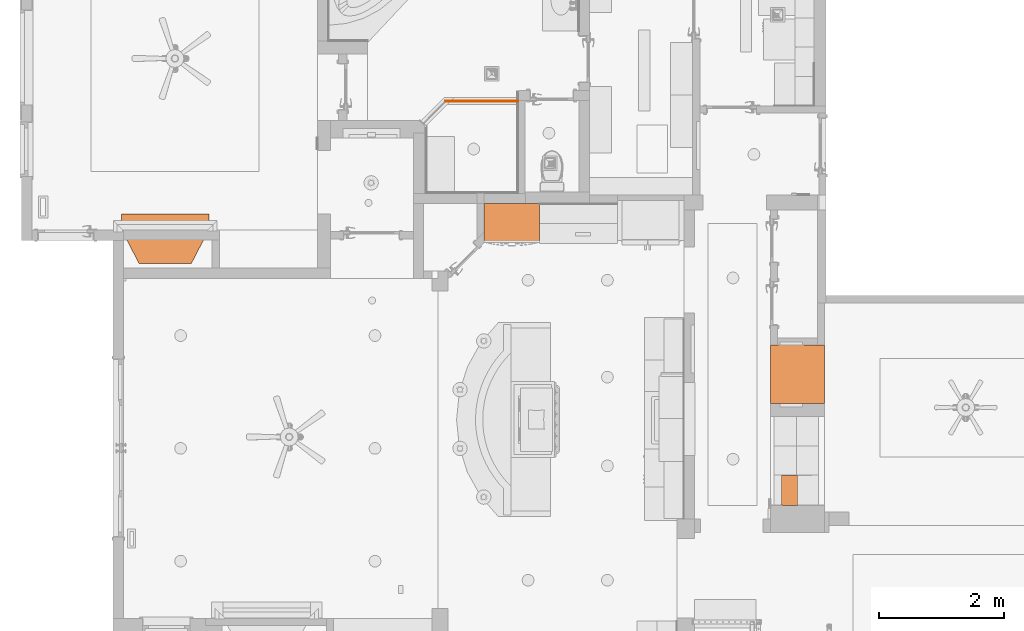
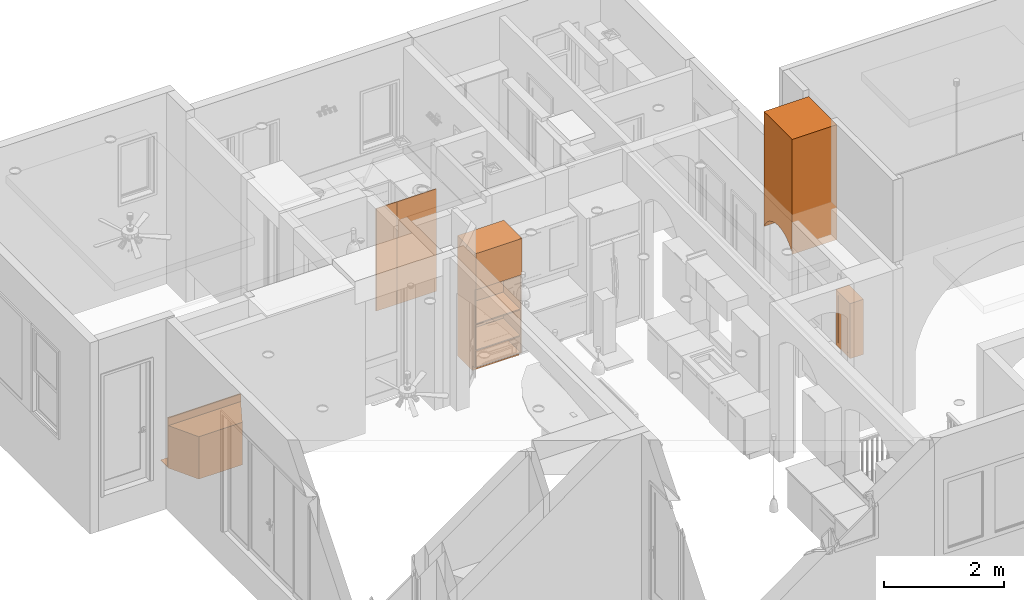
# One storey, part 66 of 77: 6 proxies.
"""IFC2X3 building model written with IfcOpenShell, lengths in inches."""

from ifc_helpers import new_model, entity, si_unit, converted_unit, derived_unit, money_unit, direction, frame, origin_with_axes, place, context, subcontext, project, spatial, faceted_brep, material, type_object, element, save


model = new_model("IFC2X3")

# Units and contexts
model_context = context("Model", 3, precision=0.000393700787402, world=origin_with_axes(), true_north=direction((0.0, 1.0)))
body_context = subcontext(model_context, "Body", "Model", "MODEL_VIEW")
ifc_project = project(units=[converted_unit("LENGTHUNIT", "INCH", entity("IfcPositiveLengthMeasure", 0.0254), si_unit("LENGTHUNIT", "METRE"), dimensions=[1, 0, 0, 0, 0, 0, 0]), converted_unit("AREAUNIT", "SQUARE_FOOT", entity("IfcPositiveLengthMeasure", 0.09290304), si_unit("AREAUNIT", "SQUARE_METRE"), dimensions=[2, 0, 0, 0, 0, 0, 0]), si_unit("PLANEANGLEUNIT", "RADIAN"), si_unit("SOLIDANGLEUNIT", "STERADIAN"), money_unit("USD"), converted_unit("TIMEUNIT", "Year", entity("IfcTimeMeasure", 31556926.0), si_unit("TIMEUNIT", "SECOND"), dimensions=[0, 0, 1, 0, 0, 0, 0]), si_unit("MASSUNIT", "GRAM", prefix="KILO"), si_unit("THERMODYNAMICTEMPERATUREUNIT", "DEGREE_CELSIUS"), si_unit("LUMINOUSINTENSITYUNIT", "LUMEN"), si_unit("ENERGYUNIT", "JOULE", prefix="MEGA"), derived_unit("THERMALCONDUCTANCEUNIT", [(si_unit("POWERUNIT", "WATT"), 1), (si_unit("LENGTHUNIT", "METRE"), -1), (si_unit("THERMODYNAMICTEMPERATUREUNIT", "KELVIN"), -1)]), derived_unit("SPECIFICHEATCAPACITYUNIT", [(si_unit("ENERGYUNIT", "JOULE"), 1), (si_unit("MASSUNIT", "GRAM", prefix="KILO"), -1), (si_unit("THERMODYNAMICTEMPERATUREUNIT", "KELVIN"), -1)]), derived_unit("MASSDENSITYUNIT", [(si_unit("MASSUNIT", "GRAM", prefix="KILO"), 1), (si_unit("VOLUMEUNIT", "CUBIC_METRE"), -1)])], contexts=[model_context])

# Site, building, storey
site_placement = place(None, origin_with_axes())
site = spatial("IfcSite", under=ifc_project, at=site_placement, Name="Site", CompositionType="ELEMENT")
building_placement = place(site_placement, origin_with_axes())
building = spatial("IfcBuilding", under=site, at=building_placement, Name="Building", CompositionType="ELEMENT")
storey_placement = place(building_placement, frame((0.0, 0.0, 127.952755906), z_axis=(0.0, 0.0, 1.0), x_axis=(1.0, 0.0, 0.0)))
storey = spatial("IfcBuildingStorey", under=building, at=storey_placement, Name="Second Floor", CompositionType="ELEMENT", Elevation=127.953)

# Proxies
ifc_material_1 = material(Name="Generic - Structural")
building_element_proxy_type_1 = type_object("IfcBuildingElementProxyType", Name="Generic - Structural", PredefinedType="NOTDEFINED")
proxy_1_placement = place(storey_placement, frame((1891.98964339, 319.407172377, 186.094488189), z_axis=(0.0, 0.0, 1.0), x_axis=(1.0, 0.0, 0.0)))
element("IfcBuildingElementProxy", 1, at=proxy_1_placement, inside=storey, type_object=building_element_proxy_type_1, material=ifc_material_1, Name="MORPH-001", context=body_context, shape_type="Brep", body=[
    faceted_brep([(-1200.0, -35.0945622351, -88.6094861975), (-1200.0, -36.9971584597, -92.0), (-1200.0, -36.9971584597, 0.0), (-1200.0, 0.0, 0.0), (-1200.0, 0.0, -92.0), (-1200.0, -1.90259622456, -88.6094861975), (-1200.0, -4.419066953, -85.6459019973), (-1200.0, -7.45632958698, -83.2188684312), (-1200.0, -10.9020377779, -81.4181598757), (-1200.0, -14.6287370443, -80.3103833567), (-1200.0, -18.4985792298, -79.9365147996), (-1200.0, -22.3684214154, -80.3103833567), (-1200.0, -26.0951206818, -81.4181598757), (-1200.0, -29.5408288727, -83.2188684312), (-1200.0, -32.5780915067, -85.6459019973), (-1166.0, -35.0945622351, -88.6094861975), (-1166.0, -36.9971584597, -92.0), (-1166.0, -36.9971584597, 0.0), (-1166.0, 0.0, 0.0), (-1166.0, 0.0, -92.0), (-1166.0, -1.90259622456, -88.6094861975), (-1166.0, -4.419066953, -85.6459019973), (-1166.0, -7.45632958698, -83.2188684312), (-1166.0, -10.9020377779, -81.4181598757), (-1166.0, -14.6287370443, -80.3103833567), (-1166.0, -18.4985792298, -79.9365147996), (-1166.0, -22.3684214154, -80.3103833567), (-1166.0, -26.0951206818, -81.4181598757), (-1166.0, -29.5408288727, -83.2188684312), (-1166.0, -32.5780915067, -85.6459019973)], [[[0, 1, 2, 3, 4, 5, 6, 7, 8, 9, 10, 11, 12, 13, 14]], [[1, 0, 15, 16]], [[2, 1, 17]], [[2, 17, 18, 3]], [[4, 3, 18, 19]], [[5, 4, 19, 20]], [[6, 5, 20, 21]], [[7, 6, 21, 22]], [[8, 7, 22, 23]], [[9, 8, 23, 24]], [[10, 9, 24, 25]], [[11, 10, 25, 26]], [[12, 11, 26, 27]], [[13, 12, 27, 28]], [[14, 13, 28, 29]], [[0, 14, 29, 15]], [[16, 15, 29, 28, 27, 26, 25, 24, 23, 22, 21, 20, 19, 18, 17]], [[1, 16, 17]]]),
])
building_element_proxy_type_2 = type_object("IfcBuildingElementProxyType", Name="Fireplace-Traditional 25", PredefinedType="NOTDEFINED")
proxy_2_placement = place(storey_placement, frame((338.091494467, 392.90717231, 0.0), z_axis=(0.0, 0.0, 1.0), x_axis=(-1.0, 0.0, 0.0)))
element("IfcBuildingElementProxy", 2, at=proxy_2_placement, inside=storey, type_object=building_element_proxy_type_2, Name="FU - 003", context=body_context, shape_type="Brep", body=[
    faceted_brep([(0.0, 0.0, 0.0), (54.9212598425, 0.0, 0.0), (54.9212598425, 0.0, 1.5), (0.0, 0.0, 1.5), (0.0, 1.0, 0.0), (54.9212598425, 1.0, 0.0), (54.9212598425, 1.0, 1.5), (0.0, 1.0, 1.5)], [[[0, 1, 2, 3]], [[0, 4, 5, 1]], [[1, 5, 6, 2]], [[3, 2, 6, 7]], [[4, 0, 3, 7]], [[5, 4, 7, 6]]]),
    faceted_brep([(0.0, 0.0, 31.5), (54.9212598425, 0.0, 31.5), (54.9212598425, 0.0, 39.9606299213), (0.0, 0.0, 39.9606299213), (0.0, 1.0, 31.5), (54.9212598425, 1.0, 31.5), (54.9212598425, 1.0, 39.9606299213), (0.0, 1.0, 39.9606299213)], [[[0, 1, 2, 3]], [[0, 4, 5, 1]], [[1, 5, 6, 2]], [[3, 2, 6, 7]], [[4, 0, 3, 7]], [[5, 4, 7, 6]]]),
    faceted_brep([(7.96062992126, 0.0, 1.5), (0.0, 0.0, 1.5), (0.0, 1.0, 1.5), (7.96062992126, 1.0, 1.5), (7.96062992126, 0.0, 31.5), (0.0, 0.0, 31.5), (0.0, 1.0, 31.5), (7.96062992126, 1.0, 31.5)], [[[0, 1, 2, 3]], [[1, 0, 4, 5]], [[2, 1, 5, 6]], [[3, 2, 6, 7]], [[0, 3, 7, 4]], [[5, 4, 7, 6]]]),
    faceted_brep([(54.9212598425, 0.0, 1.5), (46.9606299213, 0.0, 1.5), (46.9606299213, 1.0, 1.5), (54.9212598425, 1.0, 1.5), (54.9212598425, 0.0, 31.5), (46.9606299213, 0.0, 31.5), (46.9606299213, 1.0, 31.5), (54.9212598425, 1.0, 31.5)], [[[0, 1, 2, 3]], [[1, 0, 4, 5]], [[2, 1, 5, 6]], [[3, 2, 6, 7]], [[0, 3, 7, 4]], [[5, 4, 7, 6]]]),
    faceted_brep([(11.5673392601, 21.0472440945, 0.0), (43.3539205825, 21.0472440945, 0.0), (43.3539205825, 21.0472440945, 33.9606299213), (11.5673392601, 21.0472440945, 33.9606299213), (1.12747252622, 1.0, 0.0), (0.0, 1.0, 0.0), (10.9606299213, 22.0472440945, 0.0), (43.9606299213, 22.0472440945, 0.0), (54.9212598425, 1.0, 0.0), (53.7937873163, 1.0, 0.0), (53.7937873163, 1.0, 33.9606299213), (54.9212598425, 1.0, 33.9606299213), (43.9606299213, 22.0472440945, 33.9606299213), (10.9606299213, 22.0472440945, 33.9606299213), (0.0, 1.0, 33.9606299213), (1.12747252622, 1.0, 33.9606299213)], [[[0, 1, 2, 3]], [[0, 4, 5, 6, 7, 8, 9, 1]], [[1, 9, 10, 2]], [[3, 2, 10, 11, 12, 13, 14, 15]], [[4, 0, 3, 15]], [[5, 4, 15, 14]], [[6, 5, 14, 13]], [[7, 6, 13, 12]], [[8, 7, 12, 11]], [[9, 8, 11, 10]]]),
    faceted_brep([(1.12747252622, 1.0, 0.0), (53.7937873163, 1.0, 0.0), (53.7937873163, 1.0, 0.5), (1.12747252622, 1.0, 0.5), (11.5673392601, 21.0472440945, 0.0), (43.3539205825, 21.0472440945, 0.0), (43.3539205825, 21.0472440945, 0.5), (11.5673392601, 21.0472440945, 0.5)], [[[0, 1, 2, 3]], [[0, 4, 5, 1]], [[1, 5, 6, 2]], [[3, 2, 6, 7]], [[4, 0, 3, 7]], [[5, 4, 7, 6]]]),
    faceted_brep([(1.12747252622, 1.0, 32.5), (53.7937873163, 1.0, 32.5), (53.7937873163, 1.0, 33.9606299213), (1.12747252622, 1.0, 33.9606299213), (11.5673392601, 21.0472440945, 32.5), (43.3539205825, 21.0472440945, 32.5), (43.3539205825, 21.0472440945, 33.9606299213), (11.5673392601, 21.0472440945, 33.9606299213)], [[[0, 1, 2, 3]], [[0, 4, 5, 1]], [[1, 5, 6, 2]], [[3, 2, 6, 7]], [[4, 0, 3, 7]], [[5, 4, 7, 6]]]),
    faceted_brep([(1.12747252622, 1.0, 0.5), (6.76483515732, 1.0, 0.5), (6.76483515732, 1.0, 32.5), (1.12747252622, 1.0, 32.5), (11.5673392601, 21.0472440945, 0.5), (43.3539205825, 21.0472440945, 0.5), (53.7937873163, 1.0, 0.5), (48.1564246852, 1.0, 0.5), (40.3203738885, 16.0472440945, 0.5), (14.600885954, 16.0472440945, 0.5), (14.600885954, 16.0472440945, 32.5), (40.3203738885, 16.0472440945, 32.5), (48.1564246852, 1.0, 32.5), (53.7937873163, 1.0, 32.5), (43.3539205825, 21.0472440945, 32.5), (11.5673392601, 21.0472440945, 32.5)], [[[0, 1, 2, 3]], [[0, 4, 5, 6, 7, 8, 9, 1]], [[1, 9, 10, 2]], [[3, 2, 10, 11, 12, 13, 14, 15]], [[4, 0, 3, 15]], [[5, 4, 15, 14]], [[6, 5, 14, 13]], [[7, 6, 13, 12]], [[8, 7, 12, 11]], [[9, 8, 11, 10]]]),
    faceted_brep([(0.0, 0.0, 0.0), (0.0, -9.0, 0.0), (0.0, -9.0, 0.5), (0.0, 0.0, 0.5), (54.9212598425, 0.0, 0.0), (54.9212598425, -9.0, 0.0), (54.9212598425, -9.0, 0.5), (54.9212598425, 0.0, 0.5)], [[[0, 1, 2, 3]], [[0, 4, 5, 1]], [[1, 5, 6, 2]], [[3, 2, 6, 7]], [[4, 0, 3, 7]], [[5, 4, 7, 6]]]),
    faceted_brep([(11.9606299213, 0.75, 1.5), (7.96062992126, 0.75, 1.5), (7.96062992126, 1.0, 1.5), (11.9606299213, 1.0, 1.5), (11.9606299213, 0.75, 31.5), (7.96062992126, 0.75, 31.5), (7.96062992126, 1.0, 31.5), (11.9606299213, 1.0, 31.5)], [[[0, 1, 2, 3]], [[1, 0, 4, 5]], [[2, 1, 5, 6]], [[3, 2, 6, 7]], [[0, 3, 7, 4]], [[5, 4, 7, 6]]]),
    faceted_brep([(46.9606299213, 0.75, 1.5), (42.9606299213, 0.75, 1.5), (42.9606299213, 1.0, 1.5), (46.9606299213, 1.0, 1.5), (46.9606299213, 0.75, 31.5), (42.9606299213, 0.75, 31.5), (42.9606299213, 1.0, 31.5), (46.9606299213, 1.0, 31.5)], [[[0, 1, 2, 3]], [[1, 0, 4, 5]], [[2, 1, 5, 6]], [[3, 2, 6, 7]], [[0, 3, 7, 4]], [[5, 4, 7, 6]]]),
])
building_element_proxy_type_3 = type_object("IfcBuildingElementProxyType", Name="Standing Cabinet Block 25", PredefinedType="NOTDEFINED")
proxy_3_placement = place(storey_placement, frame((511.489643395, 408.408081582, 0.0), z_axis=(0.0, 0.0, 1.0), x_axis=(1.0, 0.0, 0.0)))
element("IfcBuildingElementProxy", 3, at=proxy_3_placement, inside=storey, type_object=building_element_proxy_type_3, Name="OBJ-17", context=body_context, shape_type="Brep", body=[
    faceted_brep([(0.75, -23.25, 17.625), (34.2893700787, -23.25, 17.625), (34.2893700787, -23.25, 18.375), (0.75, -23.25, 18.375), (0.75, -0.75, 17.625), (34.2893700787, -0.75, 17.625), (34.2893700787, -0.75, 18.375), (0.75, -0.75, 18.375)], [[[0, 1, 2, 3]], [[0, 4, 5, 1]], [[1, 5, 6, 2]], [[3, 2, 6, 7]], [[4, 0, 3, 7]], [[5, 4, 7, 6]]]),
    faceted_brep([(0.75, -23.25, 38.625), (34.2893700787, -23.25, 38.625), (34.2893700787, -23.25, 39.375), (0.75, -23.25, 39.375), (0.75, -0.75, 38.625), (34.2893700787, -0.75, 38.625), (34.2893700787, -0.75, 39.375), (0.75, -0.75, 39.375)], [[[0, 1, 2, 3]], [[0, 4, 5, 1]], [[1, 5, 6, 2]], [[3, 2, 6, 7]], [[4, 0, 3, 7]], [[5, 4, 7, 6]]]),
    faceted_brep([(0.75, -23.25, 66.625), (34.2893700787, -23.25, 66.625), (34.2893700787, -23.25, 67.375), (0.75, -23.25, 67.375), (0.75, -0.75, 66.625), (34.2893700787, -0.75, 66.625), (34.2893700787, -0.75, 67.375), (0.75, -0.75, 67.375)], [[[0, 1, 2, 3]], [[0, 4, 5, 1]], [[1, 5, 6, 2]], [[3, 2, 6, 7]], [[4, 0, 3, 7]], [[5, 4, 7, 6]]]),
    faceted_brep([(0.0393700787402, -23.25, 67.0393700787), (17.4803149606, -23.25, 67.0393700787), (17.4803149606, -24.0, 67.0393700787), (0.0393700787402, -24.0, 67.0393700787), (0.0393700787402, -23.25, 96.0236220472), (17.4803149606, -23.25, 96.0236220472), (17.4803149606, -24.0, 96.0236220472), (0.0393700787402, -24.0, 96.0236220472)], [[[0, 1, 2, 3]], [[0, 4, 5, 1]], [[1, 5, 6, 2]], [[3, 2, 6, 7]], [[4, 0, 3, 7]], [[5, 4, 7, 6]]]),
    faceted_brep([(35.0, -23.25, 67.0393700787), (35.0, -24.0, 67.0393700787), (17.5590551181, -24.0, 67.0393700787), (17.5590551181, -23.25, 67.0393700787), (35.0, -23.25, 96.0236220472), (35.0, -24.0, 96.0236220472), (17.5590551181, -24.0, 96.0236220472), (17.5590551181, -23.25, 96.0236220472)], [[[0, 1, 2, 3]], [[4, 5, 1, 0]], [[1, 5, 6, 2]], [[3, 2, 6, 7]], [[0, 3, 7, 4]], [[7, 6, 5, 4]]]),
    faceted_brep([(0.75, -23.25, 4.0), (34.2893700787, -23.25, 4.0), (34.2893700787, -23.25, 4.75), (0.75, -23.25, 4.75), (0.75, 0.0, 4.0), (34.2893700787, 0.0, 4.0), (34.2893700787, 0.0, 4.75), (0.75, 0.0, 4.75)], [[[0, 1, 2, 3]], [[0, 4, 5, 1]], [[1, 5, 6, 2]], [[3, 2, 6, 7]], [[4, 0, 3, 7]], [[5, 4, 7, 6]]]),
    faceted_brep([(0.75, -23.25, 95.312992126), (34.2893700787, -23.25, 95.312992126), (34.2893700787, -23.25, 96.062992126), (0.75, -23.25, 96.062992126), (0.75, 0.0, 95.312992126), (34.2893700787, 0.0, 95.312992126), (34.2893700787, 0.0, 96.062992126), (0.75, 0.0, 96.062992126)], [[[0, 1, 2, 3]], [[0, 4, 5, 1]], [[1, 5, 6, 2]], [[3, 2, 6, 7]], [[4, 0, 3, 7]], [[5, 4, 7, 6]]]),
    faceted_brep([(0.0, 0.0, 4.0), (0.0, -23.25, 4.0), (0.0, -23.25, 96.062992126), (0.0, 0.0, 96.062992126), (0.75, 0.0, 4.0), (0.75, -23.25, 4.0), (0.75, -23.25, 96.062992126), (0.75, 0.0, 96.062992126)], [[[0, 1, 2, 3]], [[0, 4, 5, 1]], [[1, 5, 6, 2]], [[3, 2, 6, 7]], [[4, 0, 3, 7]], [[5, 4, 7, 6]]]),
    faceted_brep([(35.0393700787, -23.25, 4.0), (35.0393700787, 0.0, 4.0), (35.0393700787, 0.0, 96.062992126), (35.0393700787, -23.25, 96.062992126), (34.2893700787, -23.25, 4.0), (34.2893700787, 0.0, 4.0), (34.2893700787, 0.0, 96.062992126), (34.2893700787, -23.25, 96.062992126)], [[[0, 1, 2, 3]], [[0, 4, 5, 1]], [[1, 5, 6, 2]], [[3, 2, 6, 7]], [[4, 0, 3, 7]], [[5, 4, 7, 6]]]),
    faceted_brep([(34.2893700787, -0.375, 4.75), (0.75, -0.375, 4.75), (0.75, -0.375, 95.312992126), (34.2893700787, -0.375, 95.312992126), (34.2893700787, -0.75, 4.75), (0.75, -0.75, 4.75), (0.75, -0.75, 95.312992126), (34.2893700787, -0.75, 95.312992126)], [[[0, 1, 2, 3]], [[0, 4, 5, 1]], [[1, 5, 6, 2]], [[3, 2, 6, 7]], [[4, 0, 3, 7]], [[5, 4, 7, 6]]]),
    faceted_brep([(0.0, -19.75, 0.0), (35.0393700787, -19.75, 0.0), (35.0393700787, -19.75, 4.0), (0.0, -19.75, 4.0), (0.0, 0.0, 0.0), (35.0393700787, 0.0, 0.0), (35.0393700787, 0.0, 4.0), (0.0, 0.0, 4.0)], [[[0, 1, 2, 3]], [[0, 4, 5, 1]], [[1, 5, 6, 2]], [[3, 2, 6, 7]], [[4, 0, 3, 7]], [[5, 4, 7, 6]]]),
])
building_element_proxy_type_4 = type_object("IfcBuildingElementProxyType", Name="Wall Cabinet Block 25", PredefinedType="NOTDEFINED")
proxy_4_placement = place(storey_placement, frame((708.989643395, 218.433635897, -12.9527559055), z_axis=(0.0, 0.0, 1.0), x_axis=(0.0, -1.0, 0.0)))
element("IfcBuildingElementProxy", 4, at=proxy_4_placement, inside=storey, type_object=building_element_proxy_type_4, Name="FU - 005", context=body_context, shape_type="Brep", body=[
    faceted_brep([(-0.75, -9.28937007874, 70.8361220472), (-0.75, -9.28937007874, 71.5861220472), (-18.1476377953, -9.28937007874, 71.5861220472), (-18.1476377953, -9.28937007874, 70.8361220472), (-0.75, -0.75, 70.8361220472), (-0.75, -0.75, 71.5861220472), (-18.1476377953, -0.75, 71.5861220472), (-18.1476377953, -0.75, 70.8361220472)], [[[0, 1, 2, 3]], [[4, 5, 1, 0]], [[1, 5, 6, 2]], [[3, 2, 6, 7]], [[0, 3, 7, 4]], [[7, 6, 5, 4]]]),
    faceted_brep([(-0.75, -9.28937007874, 81.6722440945), (-0.75, -9.28937007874, 82.4222440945), (-18.1476377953, -9.28937007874, 82.4222440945), (-18.1476377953, -9.28937007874, 81.6722440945), (-0.75, -0.75, 81.6722440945), (-0.75, -0.75, 82.4222440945), (-18.1476377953, -0.75, 82.4222440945), (-18.1476377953, -0.75, 81.6722440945)], [[[0, 1, 2, 3]], [[4, 5, 1, 0]], [[1, 5, 6, 2]], [[3, 2, 6, 7]], [[0, 3, 7, 4]], [[7, 6, 5, 4]]]),
    faceted_brep([(-0.75, -9.28937007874, 92.5083661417), (-0.75, -9.28937007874, 93.2583661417), (-18.1476377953, -9.28937007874, 93.2583661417), (-18.1476377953, -9.28937007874, 92.5083661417), (-0.75, -0.75, 92.5083661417), (-0.75, -0.75, 93.2583661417), (-18.1476377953, -0.75, 93.2583661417), (-18.1476377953, -0.75, 92.5083661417)], [[[0, 1, 2, 3]], [[4, 5, 1, 0]], [[1, 5, 6, 2]], [[3, 2, 6, 7]], [[0, 3, 7, 4]], [[7, 6, 5, 4]]]),
    faceted_brep([(-3.03937007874, -10.0393700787, 101.05511811), (-3.03937007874, -10.0393700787, 63.0393700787), (-0.0393700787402, -10.0393700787, 60.0393700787), (-0.0393700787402, -10.0393700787, 104.05511811), (-3.03937007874, -9.28937007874, 101.05511811), (-3.03937007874, -9.28937007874, 63.0393700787), (-0.0393700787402, -9.28937007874, 60.0393700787), (-0.0393700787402, -9.28937007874, 104.05511811)], [[[0, 1, 2, 3]], [[1, 0, 4, 5]], [[1, 5, 6, 2]], [[3, 2, 6, 7]], [[4, 0, 3, 7]], [[5, 4, 7, 6]]]),
    faceted_brep([(-18.8582677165, -10.0393700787, 60.0393700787), (-18.8582677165, -10.0393700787, 104.05511811), (-18.8582677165, -9.28937007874, 104.05511811), (-18.8582677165, -9.28937007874, 60.0393700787), (-15.8582677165, -10.0393700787, 63.0393700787), (-15.8582677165, -10.0393700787, 101.05511811), (-15.8582677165, -9.28937007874, 101.05511811), (-15.8582677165, -9.28937007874, 63.0393700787)], [[[0, 1, 2, 3]], [[1, 0, 4, 5]], [[2, 1, 5, 6]], [[3, 2, 6, 7]], [[0, 3, 7, 4]], [[5, 4, 7, 6]]]),
    faceted_brep([(-15.8582677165, -9.28937007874, 63.0393700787), (-3.03937007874, -9.28937007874, 63.0393700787), (-0.0393700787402, -9.28937007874, 60.0393700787), (-18.8582677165, -9.28937007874, 60.0393700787), (-15.8582677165, -10.0393700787, 63.0393700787), (-3.03937007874, -10.0393700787, 63.0393700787), (-0.0393700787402, -10.0393700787, 60.0393700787), (-18.8582677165, -10.0393700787, 60.0393700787)], [[[0, 1, 2, 3]], [[1, 0, 4, 5]], [[1, 5, 6, 2]], [[7, 3, 2, 6]], [[7, 4, 0, 3]], [[4, 7, 6, 5]]]),
    faceted_brep([(-3.03937007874, -9.28937007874, 101.05511811), (-15.8582677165, -9.28937007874, 101.05511811), (-18.8582677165, -9.28937007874, 104.05511811), (-0.0393700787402, -9.28937007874, 104.05511811), (-3.03937007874, -10.0393700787, 101.05511811), (-15.8582677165, -10.0393700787, 101.05511811), (-18.8582677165, -10.0393700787, 104.05511811), (-0.0393700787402, -10.0393700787, 104.05511811)], [[[0, 1, 2, 3]], [[1, 0, 4, 5]], [[5, 6, 2, 1]], [[2, 6, 7, 3]], [[4, 0, 3, 7]], [[6, 5, 4, 7]]]),
    faceted_brep([(-15.8582677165, -9.47687007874, 63.0393700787), (-15.8582677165, -9.47687007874, 101.05511811), (-3.03937007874, -9.47687007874, 101.05511811), (-3.03937007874, -9.47687007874, 63.0393700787), (-15.8582677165, -9.85187007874, 63.0393700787), (-15.8582677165, -9.85187007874, 101.05511811), (-3.03937007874, -9.85187007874, 101.05511811), (-3.03937007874, -9.85187007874, 63.0393700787)], [[[0, 1, 2, 3]], [[0, 4, 5, 1]], [[1, 5, 6, 2]], [[2, 6, 7, 3]], [[3, 7, 4, 0]], [[7, 6, 5, 4]]]),
    faceted_brep([(-0.75, -9.28937007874, 60.0), (-0.75, -9.28937007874, 60.75), (-18.1476377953, -9.28937007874, 60.75), (-18.1476377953, -9.28937007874, 60.0), (-0.75, 0.0, 60.0), (-0.75, 0.0, 60.75), (-18.1476377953, 0.0, 60.75), (-18.1476377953, 0.0, 60.0)], [[[0, 1, 2, 3]], [[4, 5, 1, 0]], [[1, 5, 6, 2]], [[3, 2, 6, 7]], [[0, 3, 7, 4]], [[7, 6, 5, 4]]]),
    faceted_brep([(-0.75, -9.28937007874, 103.344488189), (-0.75, -9.28937007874, 104.094488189), (-18.1476377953, -9.28937007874, 104.094488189), (-18.1476377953, -9.28937007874, 103.344488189), (-0.75, 0.0, 103.344488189), (-0.75, 0.0, 104.094488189), (-18.1476377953, 0.0, 104.094488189), (-18.1476377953, 0.0, 103.344488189)], [[[0, 1, 2, 3]], [[4, 5, 1, 0]], [[1, 5, 6, 2]], [[3, 2, 6, 7]], [[0, 3, 7, 4]], [[7, 6, 5, 4]]]),
    faceted_brep([(0.0, 0.0, 60.0), (0.0, 0.0, 104.094488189), (0.0, -9.28937007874, 104.094488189), (0.0, -9.28937007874, 60.0), (-0.75, 0.0, 60.0), (-0.75, 0.0, 104.094488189), (-0.75, -9.28937007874, 104.094488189), (-0.75, -9.28937007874, 60.0)], [[[0, 1, 2, 3]], [[4, 5, 1, 0]], [[1, 5, 6, 2]], [[3, 2, 6, 7]], [[0, 3, 7, 4]], [[7, 6, 5, 4]]]),
    faceted_brep([(-18.8976377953, -9.28937007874, 60.0), (-18.8976377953, -9.28937007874, 104.094488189), (-18.8976377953, 0.0, 104.094488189), (-18.8976377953, 0.0, 60.0), (-18.1476377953, -9.28937007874, 60.0), (-18.1476377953, -9.28937007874, 104.094488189), (-18.1476377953, 0.0, 104.094488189), (-18.1476377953, 0.0, 60.0)], [[[0, 1, 2, 3]], [[4, 5, 1, 0]], [[1, 5, 6, 2]], [[3, 2, 6, 7]], [[0, 3, 7, 4]], [[7, 6, 5, 4]]]),
    faceted_brep([(-18.1476377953, -0.375, 60.75), (-18.1476377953, -0.375, 103.344488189), (-0.75, -0.375, 103.344488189), (-0.75, -0.375, 60.75), (-18.1476377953, -0.75, 60.75), (-18.1476377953, -0.75, 103.344488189), (-0.75, -0.75, 103.344488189), (-0.75, -0.75, 60.75)], [[[0, 1, 2, 3]], [[4, 5, 1, 0]], [[1, 5, 6, 2]], [[3, 2, 6, 7]], [[0, 3, 7, 4]], [[7, 6, 5, 4]]]),
])
ifc_material_2 = material(Name="Glass")
building_element_proxy_type_5 = type_object("IfcBuildingElementProxyType", Name="Glass", PredefinedType="NOTDEFINED")
proxy_5_placement = place(storey_placement, frame((1687.25096013, 472.711376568, 5.0), z_axis=(0.0, 0.0, 1.0), x_axis=(0.707106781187, -0.707106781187, 0.0)))
element("IfcBuildingElementProxy", 5, at=proxy_5_placement, inside=storey, type_object=building_element_proxy_type_5, material=ifc_material_2, Name="MORPH-009", context=body_context, shape_type="Brep", body=[
    faceted_brep([(-848.528137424, -848.528137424, 82.0), (-849.028339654, -848.321232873, 82.0), (-849.028339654, -848.321232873, 0.0), (-837.399207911, -837.399207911, 82.0), (-837.752761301, -837.04565452, 82.0), (-837.752761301, -837.04565452, 0.0), (-848.528137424, -848.528137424, 0.0), (-837.399207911, -837.399207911, 0.0)], [[[0, 1, 2]], [[1, 0, 3, 4]], [[2, 1, 4, 5]], [[2, 6, 0]], [[0, 6, 7, 3]], [[5, 4, 3]], [[6, 2, 5, 7]], [[3, 7, 5]]]),
])
proxy_6_placement = place(storey_placement, frame((1703.19703596, 472.711376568, 5.0), z_axis=(0.0, 0.0, 1.0), x_axis=(0.707106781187, -0.707106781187, 0.0)))
element("IfcBuildingElementProxy", 6, at=proxy_6_placement, inside=storey, type_object=building_element_proxy_type_5, material=ifc_material_2, Name="MORPH-009", context=body_context, shape_type="Brep", body=[
    faceted_brep([(-848.674786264, -848.674786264, 82.0), (-849.028339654, -848.321232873, 82.0), (-849.028339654, -848.321232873, 0.0), (-827.512529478, -827.512529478, 82.0), (-827.866082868, -827.158976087, 82.0), (-827.866082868, -827.158976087, 0.0), (-848.674786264, -848.674786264, 0.0), (-827.512529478, -827.512529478, 0.0)], [[[0, 1, 2]], [[1, 0, 3, 4]], [[2, 1, 4, 5]], [[0, 2, 6]], [[0, 6, 7, 3]], [[5, 4, 3]], [[6, 2, 5, 7]], [[5, 3, 7]]]),
])

save(model, "model.ifc")
